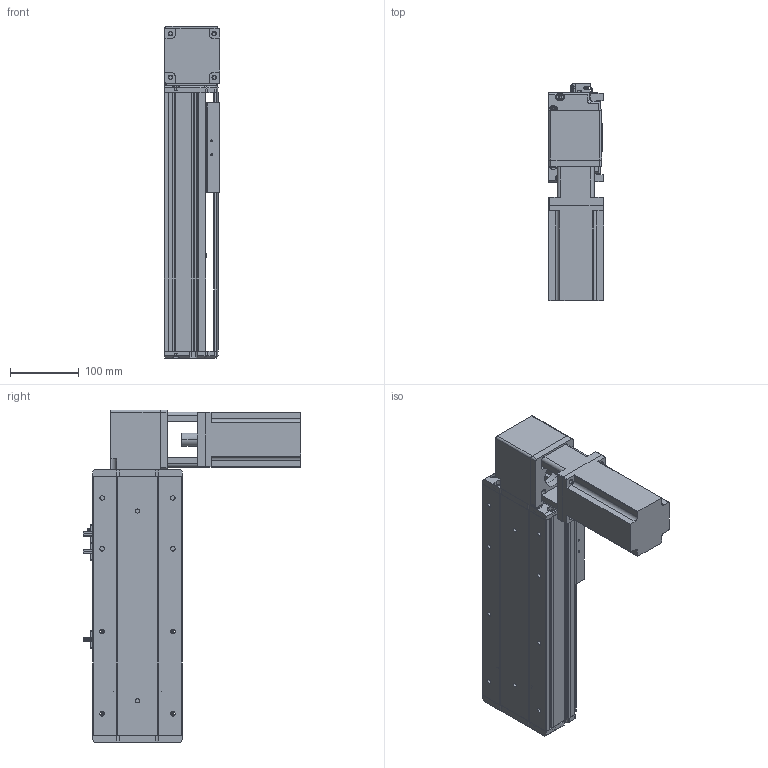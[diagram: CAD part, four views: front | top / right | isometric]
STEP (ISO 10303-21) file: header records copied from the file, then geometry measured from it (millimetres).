
FILE_DESCRIPTION (( 'STEP AP214' ), '1' );
FILE_NAME ('KSD130B-S150-MRT-CM.STEP', '2019-11-16T02:42:19', ( '微软用户' ), ( '微软中国' ), 'SwSTEP 2.0', 'SolidWorks 2014', '' );
FILE_SCHEMA (( 'AUTOMOTIVE_DESIGN' ));
Length unit declared in the file: millimetre
Products named in the file (12): 台达ECMA－C20807AS伺服电机; 130宽马达安装板1-带电机座750W（1）; 覜茼え100遵圉猾敕; U倰嫖萇EEㄜSX672; 130宽安装板同步带带电机座750W; 130宽盖板半封闭同步带-150行程; 130宽马达安装板同步带左-改; 130宽马达安装板同步带半封闭; 130宽同步带安装座半封闭; 130宽端盖同步带半封闭; 130宽底板半封闭同步带-150行程; KSD130B-S150-MRT-CM
Assembly tree (13 placements, depth 2):
  KSD130B-S150-MRT-CM
    130宽底板半封闭同步带-150行程
    130宽端盖同步带半封闭
    130宽同步带安装座半封闭
    130宽马达安装板同步带半封闭
    130宽马达安装板同步带左-改
    130宽盖板半封闭同步带-150行程
    130宽安装板同步带带电机座750W
    U倰嫖萇EEㄜSX672  x3
    覜茼え100遵圉猾敕
    130宽马达安装板1-带电机座750W（1）
    台达ECMA－C20807AS伺服电机
Bounding box: 81 x 316 x 483 mm (x, y, z)
Volume: 2669874.3 mm3; surface area: 609290.7 mm2
Topology: 14 solids, 14 shells, 1319 faces, 3672 edges, 2371 vertices
Faces by surface type: cylinder 613, plane 581, cone 125
Entity records: 41355 total; most frequent: CARTESIAN_POINT 7233, DIRECTION 6382, ORIENTED_EDGE 6092, EDGE_CURVE 3046, AXIS2_PLACEMENT_3D 2312, VERTEX_POINT 1995, VECTOR 1758, LINE 1758
